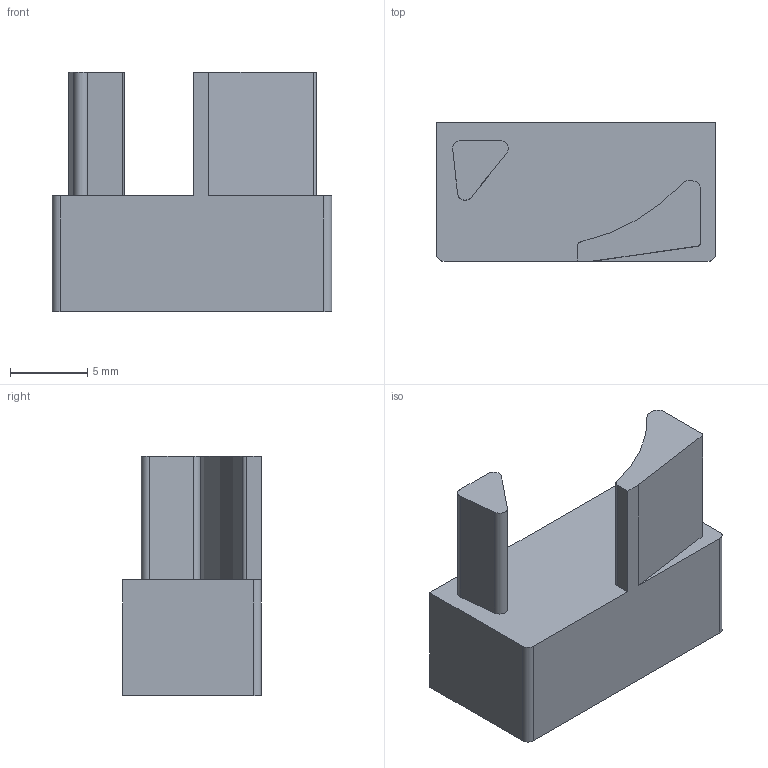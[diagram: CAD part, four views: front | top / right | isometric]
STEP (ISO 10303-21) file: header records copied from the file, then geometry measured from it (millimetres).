
FILE_DESCRIPTION (( 'STEP AP203' ), '1' );
FILE_NAME ('ChannelLine M (Endkappe l).STEP', '2022-08-04T07:35:16', ( '' ), ( '' ), 'SwSTEP 2.0', 'SolidWorks 2021', '' );
FILE_SCHEMA (( 'CONFIG_CONTROL_DESIGN' ));
Length unit declared in the file: millimetre
Products named in the file (1): ChannelLine M (Endkappe l)
Bounding box: 18.1 x 9 x 15.5 mm (x, y, z)
Volume: 1457.3 mm3; surface area: 1004.7 mm2
Topology: 1 solids, 1 shells, 25 faces, 66 edges, 44 vertices
Faces by surface type: plane 15, cylinder 10
Entity records: 857 total; most frequent: DIRECTION 138, CARTESIAN_POINT 136, ORIENTED_EDGE 132, EDGE_CURVE 66, VECTOR 46, AXIS2_PLACEMENT_3D 46, LINE 46, VERTEX_POINT 44
